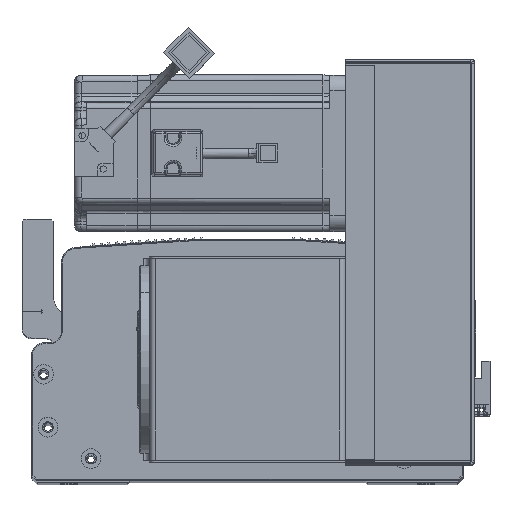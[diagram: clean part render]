
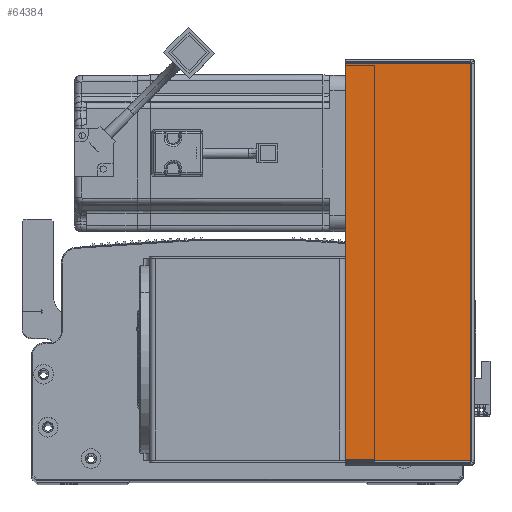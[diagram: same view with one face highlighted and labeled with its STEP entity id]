
A CAD part, top view. The second image highlights one B-rep face of the part: STEP entity #64384.
In plain terms, the highlighted planar face has unit normal (0, 0, 1) as drawn and (0, -1, 0) by its records, which use the part's own axes.
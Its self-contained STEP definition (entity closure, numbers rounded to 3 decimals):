
#2976 = VERTEX_POINT ( 'NONE', #34752 ) ;
#3978 = LINE ( 'NONE', #76167, #20291 ) ;
#6969 = VECTOR ( 'NONE', #40881, 1000. ) ;
#9507 = AXIS2_PLACEMENT_3D ( 'NONE', #25934, #45530, #38163 ) ;
#11427 = EDGE_CURVE ( 'NONE', #83540, #2976, #3978, .T. ) ;
#12063 = ORIENTED_EDGE ( 'NONE', *, *, #21848, .F. ) ;
#13295 = LINE ( 'NONE', #43678, #38690 ) ;
#14278 = ORIENTED_EDGE ( 'NONE', *, *, #69847, .T. ) ;
#15072 = DIRECTION ( 'NONE',  ( 0., 0., 1. ) ) ;
#15645 = CARTESIAN_POINT ( 'NONE',  ( 0., -1.5, -203.293 ) ) ;
#15931 = EDGE_CURVE ( 'NONE', #83540, #23763, #39495, .T. ) ;
#17957 = ORIENTED_EDGE ( 'NONE', *, *, #15931, .T. ) ;
#20291 = VECTOR ( 'NONE', #37140, 1000. ) ;
#21848 = EDGE_CURVE ( 'NONE', #2976, #57895, #13295, .T. ) ;
#23763 = VERTEX_POINT ( 'NONE', #45420 ) ;
#25934 = CARTESIAN_POINT ( 'NONE',  ( 0., -1.5, 0. ) ) ;
#33285 = CARTESIAN_POINT ( 'NONE',  ( 64.5, -1.5, -0.707 ) ) ;
#34752 = CARTESIAN_POINT ( 'NONE',  ( 0.737, -1.5, -0.707 ) ) ;
#37140 = DIRECTION ( 'NONE',  ( 0., 0., 1. ) ) ;
#38163 = DIRECTION ( 'NONE',  ( -1., 0., 0. ) ) ;
#38690 = VECTOR ( 'NONE', #76204, 1000. ) ;
#39495 = LINE ( 'NONE', #15645, #6969 ) ;
#40861 = CARTESIAN_POINT ( 'NONE',  ( 64.5, -1.5, 0. ) ) ;
#40881 = DIRECTION ( 'NONE',  ( 1., 0., 0. ) ) ;
#43678 = CARTESIAN_POINT ( 'NONE',  ( 0., -1.5, -0.707 ) ) ;
#44037 = FACE_OUTER_BOUND ( 'NONE', #61985, .T. ) ;
#45420 = CARTESIAN_POINT ( 'NONE',  ( 64.5, -1.5, -203.293 ) ) ;
#45530 = DIRECTION ( 'NONE',  ( 0., 1., 0. ) ) ;
#57895 = VERTEX_POINT ( 'NONE', #33285 ) ;
#58265 = PLANE ( 'NONE',  #9507 ) ;
#60103 = VECTOR ( 'NONE', #15072, 1000. ) ;
#61985 = EDGE_LOOP ( 'NONE', ( #67539, #17957, #14278, #12063 ) ) ;
#64384 = ADVANCED_FACE ( 'NONE', ( #44037 ), #58265, .F. ) ;
#65386 = CARTESIAN_POINT ( 'NONE',  ( 0.737, -1.5, -203.293 ) ) ;
#67539 = ORIENTED_EDGE ( 'NONE', *, *, #11427, .F. ) ;
#69847 = EDGE_CURVE ( 'NONE', #23763, #57895, #83376, .T. ) ;
#76167 = CARTESIAN_POINT ( 'NONE',  ( 0.737, -1.5, 0. ) ) ;
#76204 = DIRECTION ( 'NONE',  ( 1., 0., 0. ) ) ;
#83376 = LINE ( 'NONE', #40861, #60103 ) ;
#83540 = VERTEX_POINT ( 'NONE', #65386 ) ;
